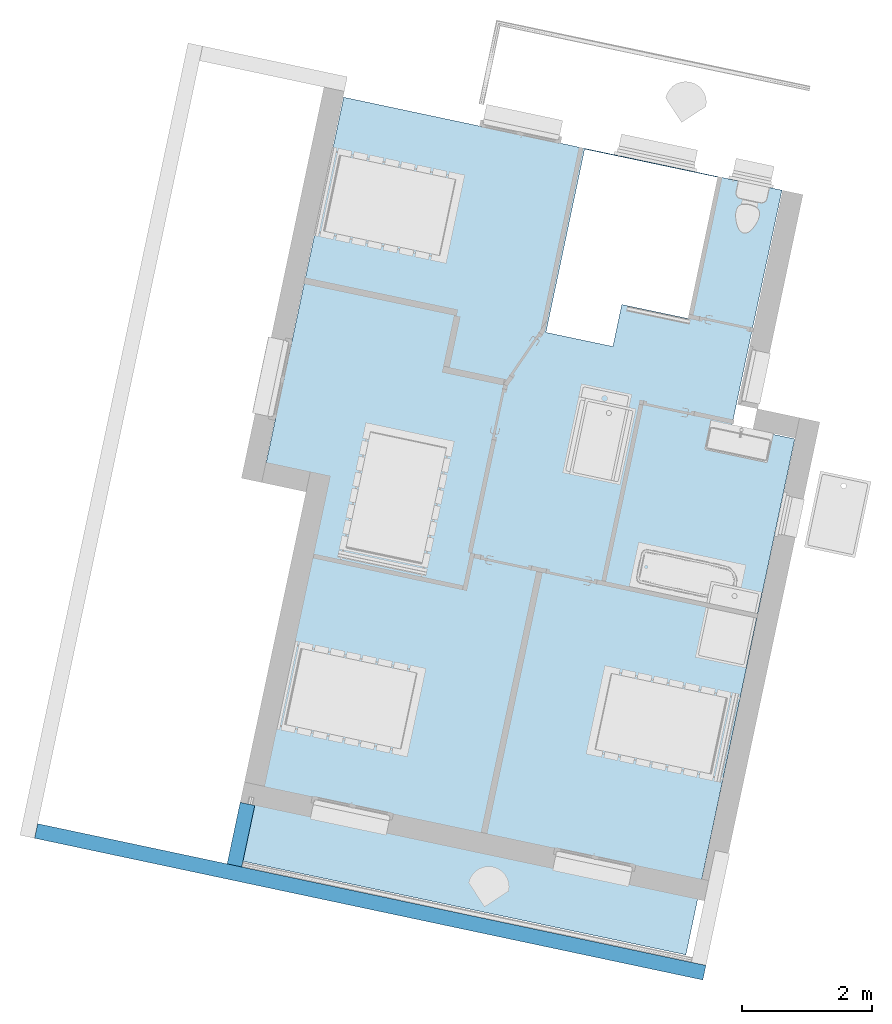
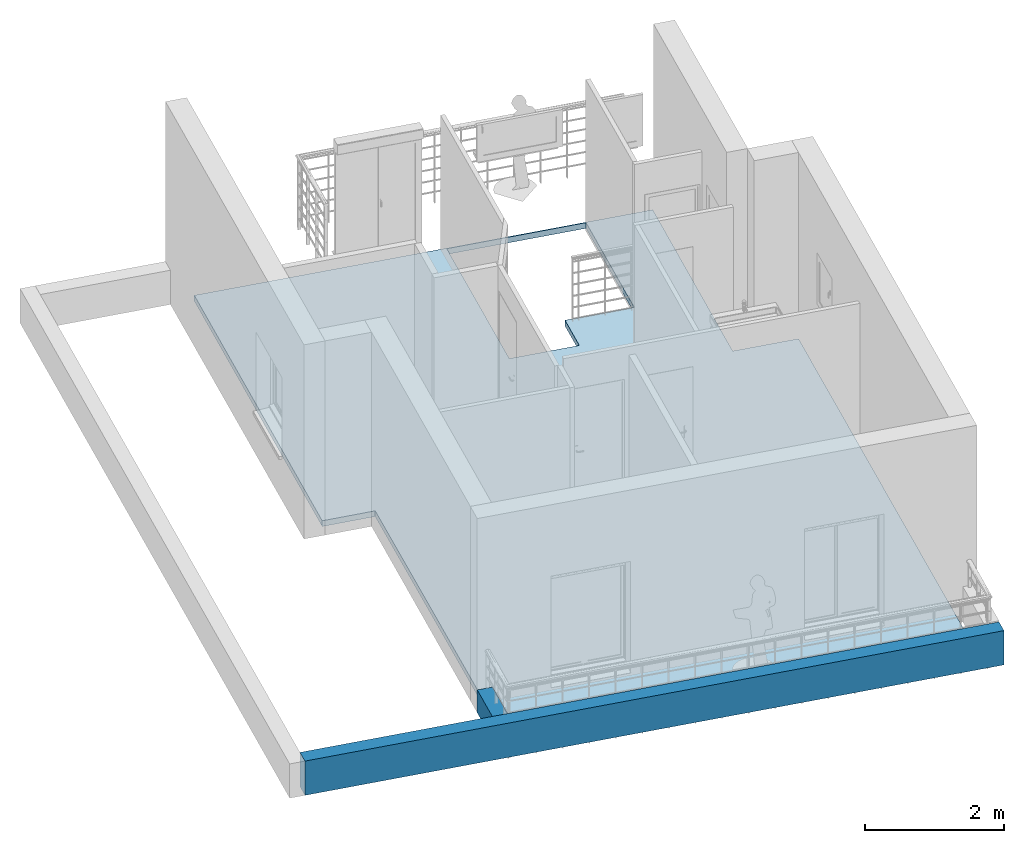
# One storey, part 1 of 18: 2 walls, 1 slab, 1 opening.
"""IFC2X3 building model written with IfcOpenShell, lengths in metres."""

from ifc_helpers import new_model, entity, si_unit, converted_unit, derived_unit, direction, frame, frame_2d, origin, place, context, subcontext, project, spatial, polyline, rectangle, outline, extrude, material, layer, layer_set, layer_usage, type_object, element, save


model = new_model("IFC2X3")

# Units and contexts
model_context = context("Model", 3, precision=1e-05, world=origin(), true_north=direction((6.12303176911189e-17, 1.0)))
body_context = subcontext(model_context, "Body", "Model", "MODEL_VIEW")
ifc_project = project(units=[si_unit("LENGTHUNIT", "METRE"), si_unit("AREAUNIT", "SQUARE_METRE"), si_unit("VOLUMEUNIT", "CUBIC_METRE"), converted_unit("PLANEANGLEUNIT", "DEGREE", entity("IfcRatioMeasure", 0.0174532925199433), si_unit("PLANEANGLEUNIT", "RADIAN"), dimensions=[0, 0, 0, 0, 0, 0, 0]), si_unit("MASSUNIT", "GRAM", prefix="KILO"), derived_unit("MASSDENSITYUNIT", [(si_unit("MASSUNIT", "GRAM", prefix="KILO"), 1), (si_unit("LENGTHUNIT", "METRE"), -3)]), si_unit("TIMEUNIT", "SECOND"), si_unit("FREQUENCYUNIT", "HERTZ"), si_unit("THERMODYNAMICTEMPERATUREUNIT", "DEGREE_CELSIUS"), derived_unit("THERMALTRANSMITTANCEUNIT", [(si_unit("MASSUNIT", "GRAM", prefix="KILO"), 1), (si_unit("THERMODYNAMICTEMPERATUREUNIT", "KELVIN"), -1), (si_unit("TIMEUNIT", "SECOND"), -3)]), derived_unit("VOLUMETRICFLOWRATEUNIT", [(si_unit("LENGTHUNIT", "METRE"), 3), (si_unit("TIMEUNIT", "SECOND"), -1)]), si_unit("ELECTRICCURRENTUNIT", "AMPERE"), si_unit("ELECTRICVOLTAGEUNIT", "VOLT"), si_unit("POWERUNIT", "WATT"), si_unit("FORCEUNIT", "NEWTON", prefix="KILO"), si_unit("ILLUMINANCEUNIT", "LUX"), si_unit("LUMINOUSFLUXUNIT", "LUMEN"), si_unit("LUMINOUSINTENSITYUNIT", "CANDELA"), derived_unit("USERDEFINED", [(si_unit("MASSUNIT", "GRAM", prefix="KILO"), -1), (si_unit("LENGTHUNIT", "METRE"), -2), (si_unit("TIMEUNIT", "SECOND"), 3), (si_unit("LUMINOUSFLUXUNIT", "LUMEN"), 1)]), derived_unit("LINEARVELOCITYUNIT", [(si_unit("LENGTHUNIT", "METRE"), 1), (si_unit("TIMEUNIT", "SECOND"), -1)]), si_unit("PRESSUREUNIT", "PASCAL"), derived_unit("USERDEFINED", [(si_unit("LENGTHUNIT", "METRE"), -2), (si_unit("MASSUNIT", "GRAM", prefix="KILO"), 1), (si_unit("TIMEUNIT", "SECOND"), -2)])], contexts=[model_context])

# Site, building, storey
site_placement = place(None, origin())
site = spatial("IfcSite", under=ifc_project, at=site_placement, Name="Default", CompositionType="ELEMENT")
building_placement = place(site_placement, origin())
building = spatial("IfcBuilding", under=site, at=building_placement, CompositionType="ELEMENT")
storey_placement = place(building_placement, frame((0.0, 0.0, 2.8)))
storey = spatial("IfcBuildingStorey", under=building, at=storey_placement, Name="ETAGE", CompositionType="ELEMENT", Elevation=2.8)

# Slab, opening
ifc_material_1 = material(Name="Béton")
ifc_layer_1 = layer(ifc_material_1, 0.1)
ifc_layer_set_1 = layer_set([ifc_layer_1], Name="Sol:Dalle Béton  terrasse - 10 cm 2")
ifc_layer_usage_1 = layer_usage(ifc_layer_set_1, "AXIS3", "POSITIVE", 0.0)
slab_type = type_object("IfcSlabType", Name="Sol:Dalle Béton  terrasse - 10 cm 2", PredefinedType="FLOOR", material=ifc_layer_set_1)
slab_placement = place(storey_placement, frame((-19.0849010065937, 73.2086384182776, 0.0499999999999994)))
slab = element("IfcSlab", 1, at=slab_placement, inside=storey, type_object=slab_type, material=ifc_layer_usage_1, Name="Sol:Dalle Béton  terrasse - 10 cm 2", ObjectType="Sol:Dalle Béton  terrasse - 10 cm 2", PredefinedType="FLOOR", context=body_context, shape_type="SweptSolid", body=[
    extrude(outline(polyline([(3.87126432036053, 0.820696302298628), (2.64068406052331, 6.62258515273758), (-4.12551308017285, 5.18747516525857), (-3.35119892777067, 1.55352162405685), (-4.32331792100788, 1.34831083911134), (-2.64209964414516, -6.61591101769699), (4.30745033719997, -5.14888628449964), (3.08834215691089, 0.656279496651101), (3.87126432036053, 0.820696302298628)])), frame((4.30745033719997, 6.61591101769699, 0.1), z_axis=(0.0, 0.0, -1.0), x_axis=(-1.0, 0.0, 0.0)), (0.0, 0.0, 1.0), 0.1),
])
opening_placement = place(slab_placement, frame((6.06380704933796, 10.5498098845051, 0.100000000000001)))
element("IfcOpeningElement", 2, at=opening_placement, cuts=slab, Name="Sol:Dalle Béton  terrasse - 10 cm 2:2", ObjectType="Opening", context=body_context, shape_type="SweptSolid", body=[
    extrude(outline(polyline([(-1.18436614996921, -1.0522180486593), (1.70583288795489, -1.05221804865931), (1.70583288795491, 1.04825376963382), (-0.521466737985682, 1.04825376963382), (-0.521466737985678, 0.00396427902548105), (-1.18436614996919, 0.00396427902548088), (-1.18436614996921, -1.0522180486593)])), frame((0.0, 0.0, 0.0), z_axis=(0.0, 0.0, -1.0), x_axis=(0.206544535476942, 0.978437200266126, 0.0)), (0.0, 0.0, 1.0), 0.1),
])

# Walls
ifc_material_2 = material(Name="Enduit blanc cassé2")
ifc_layer_2 = layer(ifc_material_2, 0.015)
ifc_material_3 = material(Name="Parpaing")
ifc_layer_3 = layer(ifc_material_3, 0.2)
ifc_layer_4 = layer(ifc_material_2, 0.015)
ifc_layer_set_2 = layer_set([ifc_layer_2, ifc_layer_3, ifc_layer_4], Name="Mur de base:Ext. Parpaing 20 + 2 x 1.5")
ifc_layer_usage_2 = layer_usage(ifc_layer_set_2, "AXIS2", "NEGATIVE", 0.115)
wall_type = type_object("IfcWallType", Name="Mur de base:Ext. Parpaing 20 + 2 x 1.5", PredefinedType="STANDARD", material=ifc_layer_set_2)
wall_1_placement = place(storey_placement, frame((-22.165686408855, 75.1206949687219, 0.0), z_axis=(0.0, 0.0, 1.0), x_axis=(0.978238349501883, -0.207484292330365, 0.0)))
element("IfcWallStandardCase", 3, at=wall_1_placement, inside=storey, type_object=wall_type, material=ifc_layer_usage_2, Name="Mur de base:Ext. Parpaing 20 + 2 x 1.5", ObjectType="Mur de base:Ext. Parpaing 20 + 2 x 1.5", context=body_context, shape_type="SweptSolid", body=[
    extrude(rectangle(XDim=10.5452120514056, YDim=0.230000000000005, at=frame_2d((5.27260602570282, -9.85322934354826e-16), x_axis=(-1.0, 0.0))), origin(), (0.0, 0.0, 1.0), 0.6),
])
ifc_layer_usage_3 = layer_usage(ifc_layer_set_2, "AXIS2", "NEGATIVE", 0.115)
wall_2_placement = place(storey_placement, frame((-19.1043956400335, 74.5889536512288, 0.0), z_axis=(0.0, 0.0, 1.0), x_axis=(0.207484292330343, 0.978238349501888, 0.0)))
element("IfcWallStandardCase", 4, at=wall_2_placement, inside=storey, type_object=wall_type, material=ifc_layer_usage_3, Name="Mur de base:Ext. Parpaing 20 + 2 x 1.5", ObjectType="Mur de base:Ext. Parpaing 20 + 2 x 1.5", context=body_context, shape_type="SweptSolid", body=[
    extrude(rectangle(XDim=0.969999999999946, YDim=0.23, at=frame_2d((0.484999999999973, -8.32667268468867e-16), x_axis=(-1.0, 0.0))), origin(), (0.0, 0.0, 1.0), 0.4),
])

save(model, "model.ifc")
